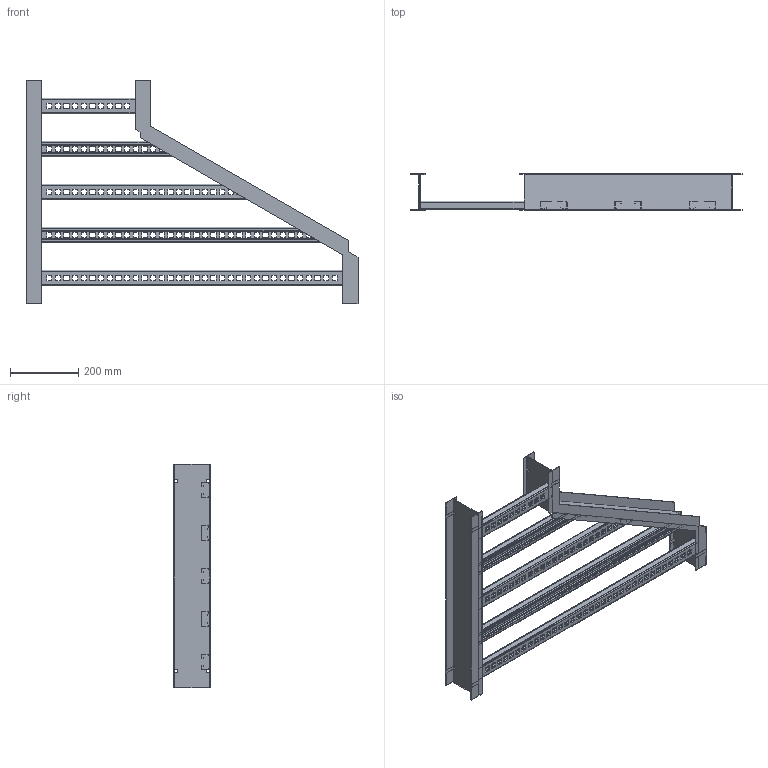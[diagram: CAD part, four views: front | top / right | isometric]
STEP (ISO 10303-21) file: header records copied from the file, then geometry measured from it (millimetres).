
FILE_DESCRIPTION((''),'2;1');
FILE_NAME('AHF53612VHRR_ASM','2010-01-27T',('erouzier'),(''),'PRO/ENGINEER BY PARAMETRIC TECHNOLOGY CORPORATION, 2008510','PRO/ENGINEER BY PARAMETRIC TECHNOLOGY CORPORATION, 2008510','');
FILE_SCHEMA(('CONFIG_CONTROL_DESIGN'));
Length unit declared in the file: inch
Products named in the file (8): CDS013976-5-24; CDS013867-5-240; CDS002159L36-P; CDS002159L36-P_AF1; CDS002159L30-P_AF2; CDS002159L18-P_AF1; CDS002159L12-P_AF2; AHF53612VHRR_ASM
Assembly tree (7 placements, depth 2):
  AHF53612VHRR_ASM
    CDS013976-5-24
    CDS013867-5-240
    CDS002159L36-P
    CDS002159L36-P_AF1
    CDS002159L30-P_AF2
    CDS002159L18-P_AF1
    CDS002159L12-P_AF2
Bounding box: 974.6 x 106.43 x 656.75 mm (x, y, z)
Volume: 1007107.1 mm3; surface area: 1313538.1 mm2
Topology: 7 solids, 7 shells, 1163 faces, 3471 edges, 2306 vertices
Faces by surface type: plane 656, cylinder 507
Entity records: 40104 total; most frequent: CARTESIAN_POINT 7249, ORIENTED_EDGE 6942, DIRECTION 6775, EDGE_CURVE 3471, VECTOR 2457, LINE 2457, VERTEX_POINT 2306, AXIS2_PLACEMENT_3D 2159
